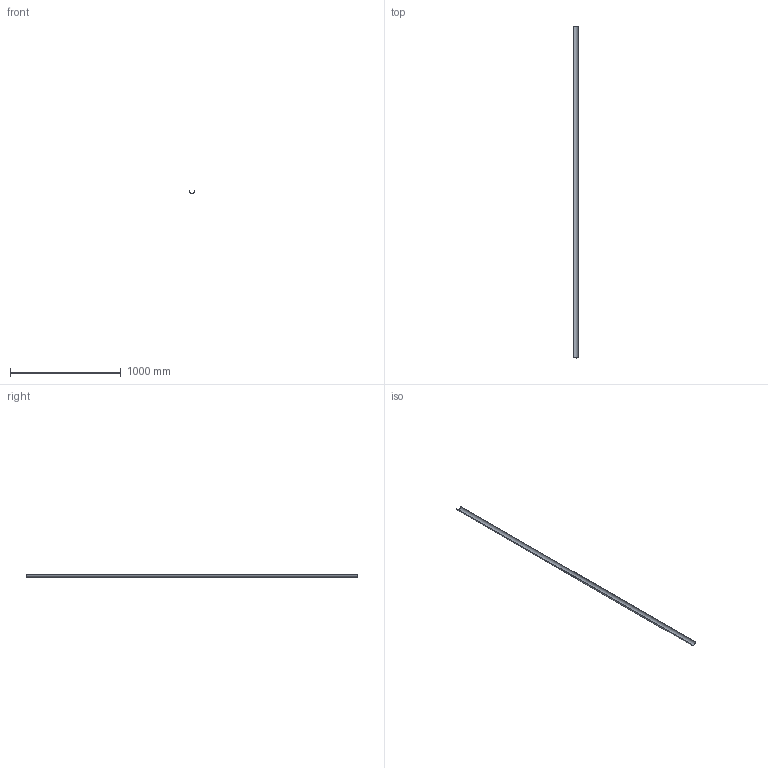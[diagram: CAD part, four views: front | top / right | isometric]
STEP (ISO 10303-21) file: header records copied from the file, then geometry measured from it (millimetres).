
FILE_DESCRIPTION(/* description */ (''),/* implementation_level */ '2;1');
FILE_NAME(/* name */ 'Z:\Geberit\Export\NewStep\361850.stp',/* time_stamp */ '2014-04-01T21:08:22+02:00',/* author */ ('bruh'),/* organization */ (''),/* preprocessor_version */ 'ST-DEVELOPER v15.2',/* originating_system */ 'Autodesk Inventor 2014',/* authorisation */ '');
FILE_SCHEMA (('AUTOMOTIVE_DESIGN { 1 0 10303 214 3 1 1 }'));
Length unit declared in the file: millimetre
Products named in the file (1): 361850
Bounding box: 51.5 x 3000 x 25.75 mm (x, y, z)
Volume: 179365.3 mm3; surface area: 482927.1 mm2
Topology: 1 solids, 1 shells, 6 faces, 12 edges, 8 vertices
Faces by surface type: plane 4, cylinder 2
Entity records: 187 total; most frequent: DIRECTION 30, CARTESIAN_POINT 27, ORIENTED_EDGE 24, EDGE_CURVE 12, AXIS2_PLACEMENT_3D 11, LINE 8, VECTOR 8, VERTEX_POINT 8
